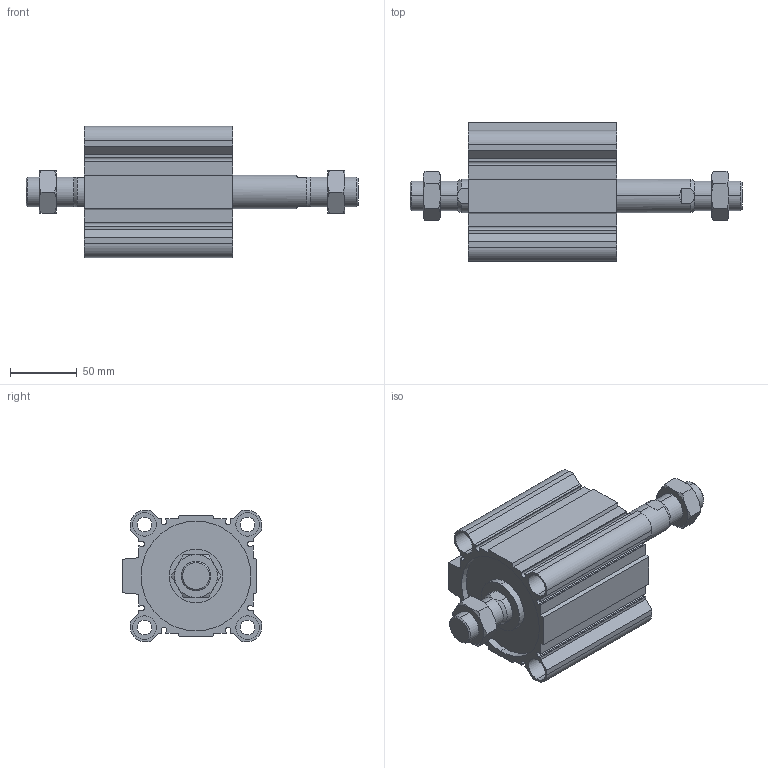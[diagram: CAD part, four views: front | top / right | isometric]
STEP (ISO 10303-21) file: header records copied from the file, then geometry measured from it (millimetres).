
FILE_DESCRIPTION (( 'STEP AP203' ), '1' );
FILE_NAME ('CCMB80-50M-P.STEP', '2020-08-10T11:55:41', ( '' ), ( '' ), 'SwSTEP 2.0', 'SolidWorks 2019', '' );
FILE_SCHEMA (( 'CONFIG_CONTROL_DESIGN' ));
Length unit declared in the file: millimetre
Products named in the file (1): CCMB80-50M-P
Bounding box: 248 x 104 x 98 mm (x, y, z)
Volume: 671822.2 mm3; surface area: 168115.7 mm2
Topology: 4 solids, 4 shells, 228 faces, 558 edges, 356 vertices
Faces by surface type: plane 106, cylinder 78, cone 44
Entity records: 7569 total; most frequent: CARTESIAN_POINT 2055, DIRECTION 1148, ORIENTED_EDGE 1116, EDGE_CURVE 558, AXIS2_PLACEMENT_3D 425, VERTEX_POINT 356, LINE 298, VECTOR 298
